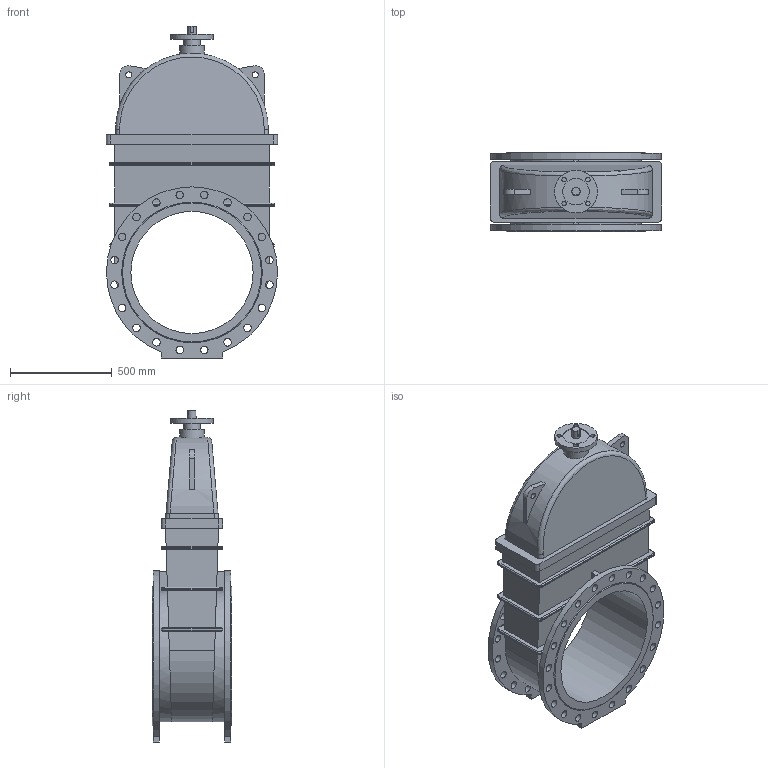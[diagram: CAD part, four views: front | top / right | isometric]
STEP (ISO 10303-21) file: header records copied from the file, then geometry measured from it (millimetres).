
FILE_DESCRIPTION(('STEP AP203'), '1');
FILE_NAME('Çàäâèæêà 47GVA.Z DN600 PN16 áåç èñïîëíèò. ìåõ.', '', ('UNSPECIFIED'), ('UNSPECIFIED'), 'ASCON STEP Converter 1.6', 'ASCON Math Kernel', '');
FILE_SCHEMA(('CONFIG_CONTROL_DESIGN'));
Length unit declared in the file: millimetre
Bounding box: 840 x 390 x 1630 mm (x, y, z)
Volume: 184015646.7 mm3; surface area: 4765294 mm2
Topology: 1 solids, 1 shells, 250 faces, 636 edges, 406 vertices
Faces by surface type: cylinder 121, plane 101, bspline 26, cone 2
Full cylindrical faces by diameter (mm): 22 x4, 30 x2, 37 x40, 40 x1, 80 x1, 120 x1, 130 x1, 210 x1, 600 x1
Entity records: 12346 total; most frequent: CARTESIAN_POINT 4428, ORIENTED_EDGE 1164, DIRECTION 1155, EDGE_CURVE 582, AXIS2_PLACEMENT_3D 430, EDGE_LOOP 416, VERTEX_POINT 406, FACE_BOUND 309
